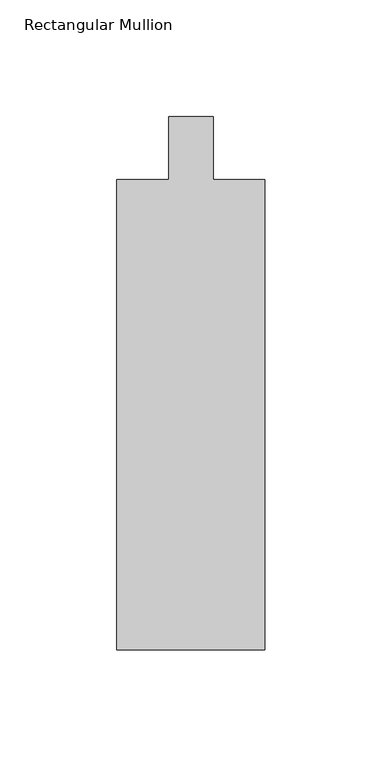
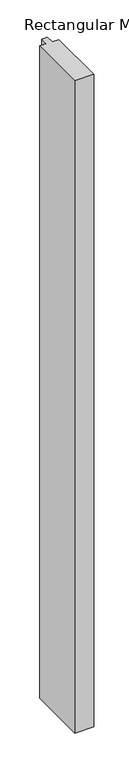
"""IFC4 building model written with IfcOpenShell, lengths in millimetres: member geometry."""

from ifc_helpers import new_model, si_unit, frame, origin, place, context, project, spatial, polyline, outline, extrude, source, transform, mapped, element, save


def rectangular_mullion_1008c914(model_context):
    return source(origin(), model_context, "Body", "SweptSolid", [
        extrude(outline(polyline([(0.0, -228.6), (-63.5, -228.6), (-63.5, -26.9875), (-41.275, -26.9875), (-41.275, 0.0), (-22.225, 0.0), (-22.225, -26.9875), (0.0, -26.9875), (0.0, -228.6)])), frame((0.0, 0.0, -2288.0399418), z_axis=(0.0, 0.0, 1.0), x_axis=(1.0, 0.0, 0.0)), (0.0, 0.0, 1.0), 2288.0399418),
    ])


if __name__ == "__main__":
    model = new_model("IFC4")
    model_context = context("Model", 3, world=origin())
    ifc_project = project(units=[si_unit("LENGTHUNIT", "METRE", prefix="MILLI")], contexts=[model_context])
    site = spatial("IfcSite", under=ifc_project)
    building = spatial("IfcBuilding", under=site)
    placement = place(None, origin())
    rectangular_mullion_shape = rectangular_mullion_1008c914(model_context)
    element("IfcMember", 1, ObjectType="Rectangular Mullion : 2 1/2\" x 8\" - Capless", at=placement, inside=building, context=model_context, shape_type="MappedRepresentation", body=[
        mapped(rectangular_mullion_shape, transform((0.0, 0.0, 0.0), x_axis=(1.0, 0.0, 0.0), y_axis=(0.0, 1.0, 0.0), z_axis=(0.0, 0.0, 1.0))),
    ])
    save(model, "model.ifc")
